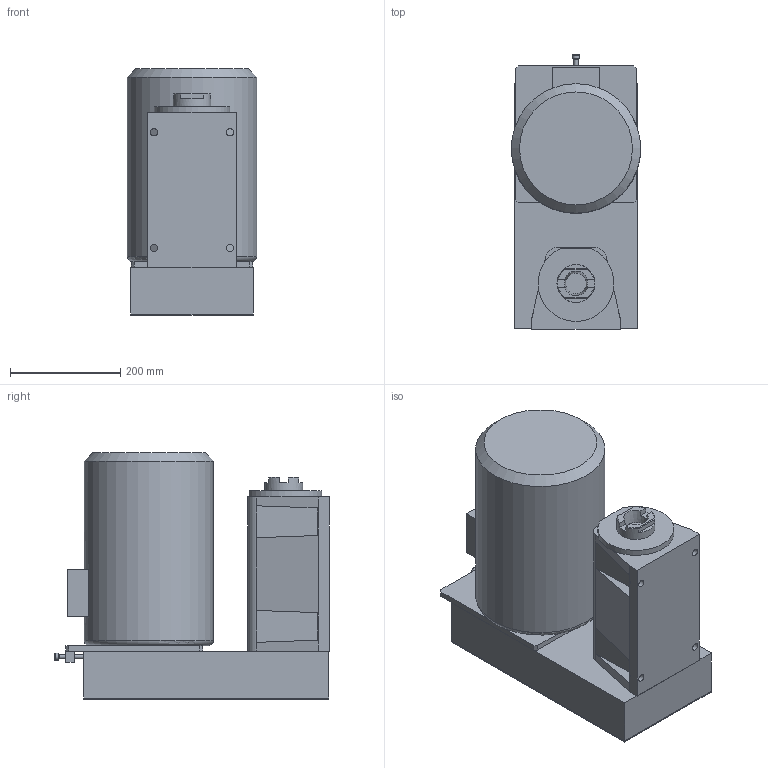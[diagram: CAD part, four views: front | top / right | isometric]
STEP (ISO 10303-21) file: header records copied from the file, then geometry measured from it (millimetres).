
FILE_DESCRIPTION((''),'2;1');
FILE_NAME('C:\VaultWork\Zeichnungen\Maßblätter\BF4\BF01516-3-1 Maßblatt BF4-SK40 U-Laterne.stp','2010-07-08T15:27:45',('Test'),(''),'Autodesk Inventor 2008','Autodesk Inventor 2008','');
FILE_SCHEMA(('AUTOMOTIVE_DESIGN { 1 0 10303 214 1 1 1 1 }'));
Length unit declared in the file: millimetre
Products named in the file (1): BF01516-3-1 Maßblatt BF4-SK40 U-Laterne
Bounding box: 235 x 499 x 447 mm (x, y, z)
Volume: 29980476.2 mm3; surface area: 827368.5 mm2
Topology: 1 solids, 2 shells, 136 faces, 330 edges, 208 vertices
Faces by surface type: plane 80, bspline 23, cylinder 21, cone 10, torus 2
Full cylindrical faces by diameter (mm): 8 x2, 13 x1, 69 x2, 235 x1
Entity records: 4074 total; most frequent: CARTESIAN_POINT 921, ORIENTED_EDGE 592, DIRECTION 591, EDGE_CURVE 296, AXIS2_PLACEMENT_3D 200, VERTEX_POINT 199, VECTOR 191, LINE 191
